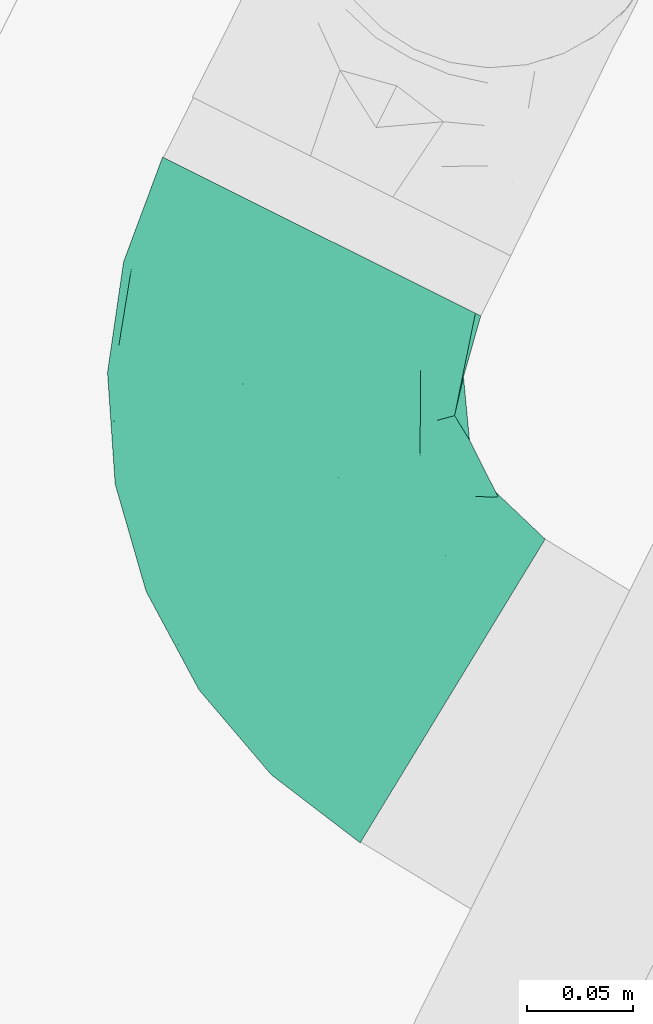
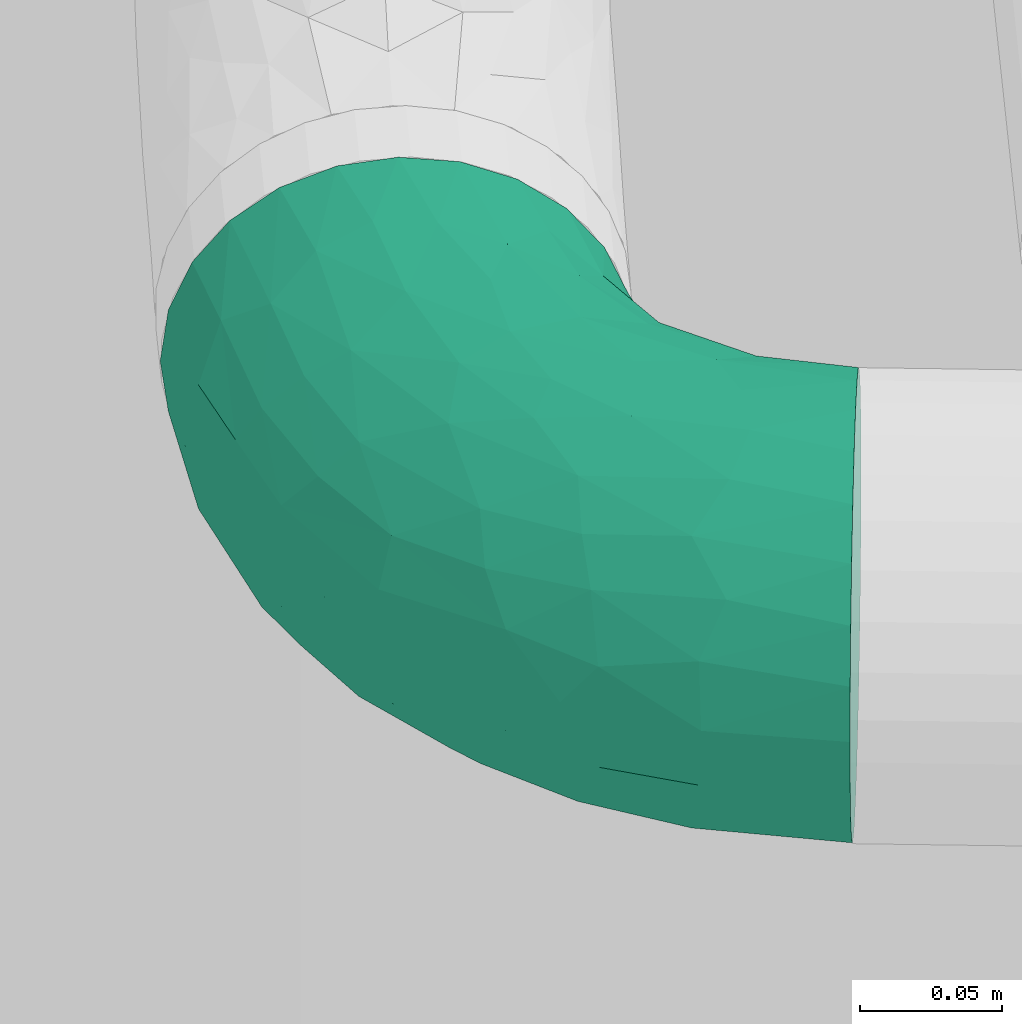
# One storey, part 35 of 47: 1 flow fitting.
"""IFC2X3 building model written with IfcOpenShell, lengths in metres."""

from ifc_helpers import new_model, entity, si_unit, converted_unit, derived_unit, direction, frame, origin, place, context, subcontext, project, spatial, faceted_brep, source, transform, mapped, type_object, type_shapes, element, save


model = new_model("IFC2X3")

# Units and contexts
model_context = context("Model", 3, precision=1e-05, world=origin(), true_north=direction((0.894925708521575, 0.446215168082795)))
context_of_model = context(None, 3, precision=1e-05, world=origin(), true_north=direction((0.894925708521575, 0.446215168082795)))
body_context = subcontext(model_context, "Body", "Model", "MODEL_VIEW")
ifc_project = project(units=[si_unit("LENGTHUNIT", "METRE"), si_unit("AREAUNIT", "SQUARE_METRE"), si_unit("VOLUMEUNIT", "CUBIC_METRE"), converted_unit("PLANEANGLEUNIT", "DEGREE", entity("IfcRatioMeasure", 0.0174532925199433), si_unit("PLANEANGLEUNIT", "RADIAN"), dimensions=[0, 0, 0, 0, 0, 0, 0]), si_unit("MASSUNIT", "GRAM", prefix="KILO"), si_unit("TIMEUNIT", "SECOND"), si_unit("FREQUENCYUNIT", "HERTZ"), si_unit("THERMODYNAMICTEMPERATUREUNIT", "DEGREE_CELSIUS"), derived_unit("THERMALTRANSMITTANCEUNIT", [(si_unit("MASSUNIT", "GRAM", prefix="KILO"), 1), (si_unit("THERMODYNAMICTEMPERATUREUNIT", "KELVIN"), -1), (si_unit("TIMEUNIT", "SECOND"), -3)]), derived_unit("VOLUMETRICFLOWRATEUNIT", [(si_unit("LENGTHUNIT", "METRE"), 3), (si_unit("TIMEUNIT", "SECOND"), -1)]), si_unit("ELECTRICCURRENTUNIT", "AMPERE"), si_unit("ELECTRICVOLTAGEUNIT", "VOLT"), si_unit("POWERUNIT", "WATT"), si_unit("FORCEUNIT", "NEWTON", prefix="KILO"), si_unit("ILLUMINANCEUNIT", "LUX"), si_unit("LUMINOUSFLUXUNIT", "LUMEN"), si_unit("LUMINOUSINTENSITYUNIT", "CANDELA"), si_unit("PRESSUREUNIT", "PASCAL")], contexts=[model_context, context_of_model])

# Site, building, storey
site_placement = place(None, frame((218.228324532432, 584.720189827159, 0.0), z_axis=(0.0, 0.0, 1.0), x_axis=(0.446215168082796, 0.894925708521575, 0.0)))
site = spatial("IfcSite", under=ifc_project, at=site_placement, Name="Default", CompositionType="ELEMENT")
building_placement = place(site_placement, origin())
building = spatial("IfcBuilding", under=site, at=building_placement, CompositionType="ELEMENT")
storey_placement = place(building_placement, frame((0.0, 0.0, 4.69)))
storey = spatial("IfcBuildingStorey", under=building, at=storey_placement, Name="1 - Piano Primo", CompositionType="ELEMENT", Elevation=4.69)

# Flow fitting
pipe_fitting_type = type_object("IfcPipeFittingType", Name="Standard", PredefinedType="NOTDEFINED")
shared_shape = source(origin(), body_context, "Body", "Brep", [
    faceted_brep([(-0.151999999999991, 0.0, -0.0841500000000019), (-0.151999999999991, -0.0217796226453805, -0.081282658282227), (-0.151999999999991, -0.0420750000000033, -0.0728760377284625), (-0.151999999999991, -0.0595030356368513, -0.05950303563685), (-0.151999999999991, -0.0728760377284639, -0.0420750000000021), (-0.151999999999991, -0.0812826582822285, -0.0217796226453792), (-0.151999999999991, -0.0841500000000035, 0.0), (-0.151999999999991, -0.0812826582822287, 0.021779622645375), (-0.151999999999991, -0.0728760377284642, 0.0420749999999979), (-0.151999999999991, -0.0595030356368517, 0.0595030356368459), (-0.151999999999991, -0.0420750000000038, 0.0728760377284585), (-0.151999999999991, -0.0217796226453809, 0.0812826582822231), (-0.151999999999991, 0.0, 0.0841499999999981), (-0.151999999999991, 0.0217796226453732, 0.0812826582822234), (-0.151999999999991, 0.0420749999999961, 0.0728760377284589), (-0.151999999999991, 0.0595030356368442, 0.0595030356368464), (-0.151999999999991, 0.0728760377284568, 0.0420749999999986), (-0.151999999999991, 0.0812826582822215, 0.0217796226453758), (-0.151999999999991, 0.0841499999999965, 0.0), (-0.151999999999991, 0.0812826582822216, -0.021779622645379), (-0.151999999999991, 0.0728760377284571, -0.0420750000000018), (-0.151999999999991, 0.0595030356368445, -0.0595030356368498), (-0.151999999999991, 0.0420749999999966, -0.0728760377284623), (-0.151999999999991, 0.0217796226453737, -0.0812826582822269), (0.0854479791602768, 0.145305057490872, -0.0420750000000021), (0.0721227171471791, 0.146434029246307, -0.05950303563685), (0.0547568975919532, 0.147905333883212, -0.0728760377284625), (0.034533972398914, 0.149618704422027, -0.081282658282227), (0.012832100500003, 0.15145737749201, -0.0841500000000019), (-0.00886977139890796, 0.153296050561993, -0.0812826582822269), (-0.0290926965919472, 0.155009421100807, -0.0728760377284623), (-0.046458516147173, 0.156480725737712, -0.0595030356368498), (-0.0597837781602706, 0.157609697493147, -0.0420750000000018), (-0.068160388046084, 0.158319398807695, -0.021779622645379), (-0.0710174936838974, 0.158561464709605, 0.0), (-0.0681603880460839, 0.158319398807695, 0.0217796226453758), (-0.0597837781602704, 0.157609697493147, 0.0420749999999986), (-0.0464585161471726, 0.156480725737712, 0.0595030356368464), (-0.0290926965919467, 0.155009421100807, 0.0728760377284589), (-0.00886977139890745, 0.153296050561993, 0.0812826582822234), (0.0128321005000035, 0.15145737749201, 0.0841499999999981), (0.0345339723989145, 0.149618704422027, 0.0812826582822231), (0.0547568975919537, 0.147905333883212, 0.0728760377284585), (0.0721227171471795, 0.146434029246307, 0.0595030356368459), (0.085447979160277, 0.145305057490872, 0.0420749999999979), (0.0938245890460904, 0.144595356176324, 0.021779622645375), (0.0966816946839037, 0.144353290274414, 0.0), (0.0938245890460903, 0.144595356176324, -0.0217796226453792), (-0.108023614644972, -0.0653863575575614, 0.0473880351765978), (-0.0953306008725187, -0.0485685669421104, 0.06285994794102), (-0.0994067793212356, -0.0785455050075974, 0.0), (0.0353835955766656, 0.000577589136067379, 0.0), (0.0158141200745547, -0.0172106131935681, 0.016063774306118), (-0.00356267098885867, -0.0352085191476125, 0.0), (-0.0984850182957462, -0.0739036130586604, 0.0266642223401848), (-0.077653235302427, 0.127498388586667, 0.0190647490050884), (-0.0744292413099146, 0.119924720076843, 0.0371750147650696), (0.0450435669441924, 0.0527612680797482, 0.0573779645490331), (0.0273056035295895, 0.0524970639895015, 0.0701487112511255), (0.0236525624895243, 0.0180683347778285, 0.0548094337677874), (0.0113854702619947, -0.0123908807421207, 0.0360075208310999), (0.0512433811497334, 0.025565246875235, 0.0217458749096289), (-0.0298000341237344, -0.0489021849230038, 0.021745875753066), (-0.0631956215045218, -0.0629629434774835, 0.0272356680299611), (-0.0491756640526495, -0.0619837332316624, 0.0), (-0.0200006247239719, -0.022042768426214, 0.0548094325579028), (-0.00819527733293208, 0.00891897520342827, 0.069722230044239), (-0.0546148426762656, -0.022776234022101, 0.0701487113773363), (-0.108292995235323, -0.0317820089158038, 0.0757894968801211), (-0.072822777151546, -0.00216494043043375, 0.0817564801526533), (-0.115146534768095, -0.0112967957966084, 0.0827843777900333), (-0.0429711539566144, 0.0328577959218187, 0.0839199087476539), (-0.0149653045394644, 0.0456402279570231, 0.0824997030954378), (-0.022305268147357, 0.0753019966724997, 0.0838159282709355), (-0.10209403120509, 0.0355562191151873, 0.0799354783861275), (-0.00201967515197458, 0.111923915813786, 0.0839222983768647), (-0.0268103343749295, 0.104731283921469, 0.0799354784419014), (-0.111353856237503, 0.0114612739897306, 0.0839222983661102), (-0.0758823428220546, 0.0278990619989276, 0.0837456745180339), (-0.104182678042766, 0.0941115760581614, 0.0274015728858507), (-0.126779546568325, 0.0799950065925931, 0.0353824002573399), (-0.122491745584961, 0.0896961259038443, 0.0), (0.0564431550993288, 0.0908900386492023, 0.0628599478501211), (-0.0221425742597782, -0.0363236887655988, 0.0391210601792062), (-0.0947281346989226, 0.0603971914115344, 0.0705967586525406), (-0.0805236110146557, 0.0876716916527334, 0.0591947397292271), (-0.116252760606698, 0.0701089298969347, 0.0550723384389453), (-0.125981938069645, 0.0513858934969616, 0.0687989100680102), (-0.0314768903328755, 0.0141051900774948, 0.0793454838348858), (0.000980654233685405, 0.0384539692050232, 0.0772445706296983), (0.0408108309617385, 0.105223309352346, 0.0757894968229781), (0.0209773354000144, 0.113781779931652, 0.0827843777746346), (-0.0984730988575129, 0.0876732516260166, 0.045122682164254), (0.0866571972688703, 0.0924209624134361, 0.0), (0.081954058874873, 0.0918943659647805, 0.0266642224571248), (0.070624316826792, 0.0569905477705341, 0.0179909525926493), (0.0587352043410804, 0.0550831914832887, 0.0428018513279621), (0.0742724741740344, 0.102117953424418, 0.0473880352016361), (-0.0430768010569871, 0.119768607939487, 0.0695856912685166), (-0.0591695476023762, 0.124231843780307, 0.0547961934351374), (-0.0790349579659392, 0.129626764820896, 0.0), (-0.0970108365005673, 0.105577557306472, 0.0), (-0.0603072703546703, 0.0825530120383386, 0.0730164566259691), (0.0659139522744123, 0.0437673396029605, 0.0), (-0.0534204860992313, 0.0581378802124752, 0.0818056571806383), (0.00830503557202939, 0.0723800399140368, 0.0817564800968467), (-0.0561866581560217, -0.0391050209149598, 0.0585560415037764), (-0.059845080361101, -0.0538753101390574, 0.0428018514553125), (0.0380633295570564, 0.0189970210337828, 0.0391210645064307), (-0.12600980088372, 0.051382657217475, -0.0687967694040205), (-0.0563755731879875, -0.0404285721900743, -0.0573779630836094), (-0.0546148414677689, -0.022776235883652, -0.0701487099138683), (-0.0200006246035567, -0.0220427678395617, -0.0548094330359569), (-0.111353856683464, 0.0114612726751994, -0.0839222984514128), (0.0512433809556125, 0.0255652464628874, -0.0217458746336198), (-0.102094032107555, 0.0355562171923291, -0.0799354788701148), (-0.116277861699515, 0.0701020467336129, -0.0550696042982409), (-0.126779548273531, 0.079995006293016, -0.0353823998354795), (-0.0984792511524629, 0.0876727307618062, -0.0451178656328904), (0.0408108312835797, 0.105223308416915, -0.0757894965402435), (-0.104182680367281, 0.094111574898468, -0.0274015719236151), (0.0236525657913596, 0.018068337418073, -0.0548094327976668), (0.0380633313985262, 0.0189970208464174, -0.0391210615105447), (0.0113854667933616, -0.0123908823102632, -0.0360075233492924), (-0.0947742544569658, 0.0603788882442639, -0.0705928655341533), (-0.0534204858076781, 0.0581378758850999, -0.0818056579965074), (-0.0591695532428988, 0.124231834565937, -0.0547961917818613), (-0.0442138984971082, 0.0187649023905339, -0.0824997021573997), (-0.0113975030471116, 0.0325553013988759, -0.0793454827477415), (-0.0383994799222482, 0.00226919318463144, -0.0772445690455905), (-0.0984850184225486, -0.073903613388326, -0.0266642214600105), (-0.108023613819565, -0.0653863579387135, -0.0473880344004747), (-0.0731501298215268, 0.0285827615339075, -0.083815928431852), (-0.0805607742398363, 0.0876375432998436, -0.0591947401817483), (-0.029800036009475, -0.0489021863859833, -0.0217458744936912), (-0.0627493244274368, -0.0655609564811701, -0.0179909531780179), (-0.0953306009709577, -0.0485685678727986, -0.0628599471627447), (-0.108292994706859, -0.0317820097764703, -0.0757894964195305), (-0.115146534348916, -0.0112967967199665, -0.082784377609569), (-0.0598450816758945, -0.0538753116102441, -0.0428018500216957), (-0.0268103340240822, 0.104731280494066, -0.0799354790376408), (-0.00201967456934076, 0.11192391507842, -0.0839222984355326), (-0.0213933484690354, 0.0779667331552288, -0.0837456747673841), (-0.0744292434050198, 0.119924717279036, -0.0371750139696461), (-0.083571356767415, 0.117596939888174, -0.0191696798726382), (-0.00819527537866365, 0.0089189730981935, -0.0697222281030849), (0.0273056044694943, 0.0524970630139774, -0.0701487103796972), (-0.0603158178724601, 0.0825261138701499, -0.0730231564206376), (-0.0430767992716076, 0.119768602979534, -0.0695856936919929), (0.0742724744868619, 0.102117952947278, -0.0473880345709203), (0.0564431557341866, 0.090890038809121, -0.0628599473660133), (0.0209773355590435, 0.113781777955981, -0.082784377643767), (-0.0291128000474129, 0.0455916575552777, -0.0839199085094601), (0.0680732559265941, 0.0576545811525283, -0.0272356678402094), (0.0158141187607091, -0.0172106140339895, -0.0160637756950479), (0.0819540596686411, 0.0918943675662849, -0.0266642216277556), (0.00830503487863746, 0.072380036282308, -0.0817564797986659), (-0.072822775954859, -0.0021649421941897, -0.0817564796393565), (0.0437087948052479, 0.0526847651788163, -0.0585560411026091), (0.0587352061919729, 0.0550831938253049, -0.0428018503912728), (-0.0221425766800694, -0.0363236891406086, -0.0391210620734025)], [[[0, 1, 2, 3, 4, 5, 6, 7, 8, 9, 10, 11, 12, 13, 14, 15, 16, 17, 18, 19, 20, 21, 22, 23]], [[24, 25, 26, 27, 28, 29, 30, 31, 32, 33, 34, 35, 36, 37, 38, 39, 40, 41, 42, 43, 44, 45, 46, 47]], [[9, 48, 49]], [[7, 6, 50]], [[51, 52, 53]], [[54, 8, 7]], [[50, 54, 7]], [[35, 55, 56]], [[48, 8, 54]], [[57, 58, 59]], [[60, 52, 61]], [[62, 63, 64]], [[9, 49, 10]], [[53, 62, 64]], [[65, 66, 67]], [[68, 67, 69]], [[56, 36, 35]], [[70, 12, 11]], [[71, 72, 73]], [[14, 13, 74]], [[68, 10, 49]], [[75, 39, 76]], [[74, 77, 78]], [[79, 17, 80]], [[17, 81, 18]], [[81, 17, 79]], [[82, 43, 42]], [[60, 65, 83]], [[84, 85, 86]], [[59, 58, 66]], [[84, 87, 74]], [[72, 88, 89]], [[82, 42, 90]], [[80, 17, 16]], [[91, 41, 40]], [[80, 92, 79]], [[93, 94, 95]], [[93, 45, 94]], [[15, 14, 87]], [[40, 39, 75]], [[92, 56, 79]], [[45, 44, 94]], [[82, 96, 97]], [[97, 94, 44]], [[97, 44, 43]], [[8, 48, 9]], [[96, 61, 95]], [[45, 93, 46]], [[85, 98, 99]], [[64, 54, 50]], [[76, 73, 75]], [[34, 100, 55]], [[13, 77, 74]], [[79, 55, 101]], [[15, 86, 16]], [[79, 101, 81]], [[90, 42, 41]], [[99, 98, 37]], [[55, 79, 56]], [[76, 98, 102]], [[59, 65, 60]], [[98, 85, 102]], [[10, 68, 11]], [[38, 98, 76]], [[76, 39, 38]], [[13, 12, 77]], [[82, 90, 58]], [[51, 103, 61]], [[37, 36, 99]], [[38, 37, 98]], [[85, 84, 102]], [[73, 76, 104]], [[91, 75, 105]], [[70, 77, 12]], [[69, 71, 78]], [[67, 68, 49]], [[70, 68, 69]], [[67, 106, 65]], [[67, 66, 88]], [[91, 90, 41]], [[88, 66, 89]], [[105, 58, 90]], [[65, 59, 66]], [[63, 48, 54]], [[49, 48, 107]], [[82, 97, 43]], [[96, 94, 97]], [[86, 15, 87]], [[104, 84, 74]], [[36, 56, 99]], [[85, 99, 56]], [[106, 67, 49]], [[65, 106, 83]], [[108, 59, 60]], [[82, 57, 96]], [[62, 53, 52]], [[63, 62, 107]], [[95, 61, 103]], [[96, 57, 108]], [[84, 104, 102]], [[76, 102, 104]], [[75, 91, 40]], [[90, 91, 105]], [[68, 70, 11]], [[77, 70, 69]], [[71, 73, 104]], [[105, 75, 73]], [[104, 74, 78]], [[71, 69, 88]], [[69, 78, 77]], [[104, 78, 71]], [[67, 88, 69]], [[66, 58, 89]], [[58, 105, 89]], [[72, 89, 105]], [[73, 72, 105]], [[88, 72, 71]], [[16, 86, 80]], [[92, 86, 85]], [[86, 92, 80]], [[56, 92, 85]], [[74, 87, 14]], [[86, 87, 84]], [[61, 52, 51]], [[62, 52, 60]], [[34, 55, 35]], [[55, 100, 101]], [[49, 107, 106]], [[83, 106, 107]], [[107, 62, 83]], [[62, 60, 83]], [[60, 61, 108]], [[61, 96, 108]], [[58, 57, 82]], [[108, 57, 59]], [[48, 63, 107]], [[64, 63, 54]], [[93, 95, 103]], [[96, 95, 94]], [[22, 21, 109]], [[110, 111, 112]], [[0, 23, 113]], [[51, 114, 103]], [[23, 22, 115]], [[116, 117, 118]], [[18, 81, 19]], [[26, 119, 27]], [[81, 120, 19]], [[121, 122, 123]], [[115, 124, 125]], [[31, 126, 32]], [[127, 128, 129]], [[20, 116, 21]], [[4, 130, 5]], [[131, 4, 3]], [[50, 6, 5]], [[132, 115, 125]], [[131, 130, 4]], [[124, 116, 133]], [[64, 134, 53]], [[116, 124, 109]], [[115, 132, 113]], [[130, 50, 5]], [[130, 135, 50]], [[136, 137, 111]], [[138, 1, 0]], [[136, 139, 131]], [[137, 2, 1]], [[140, 141, 142]], [[101, 120, 81]], [[117, 20, 19]], [[143, 144, 33]], [[112, 111, 145]], [[33, 144, 34]], [[145, 146, 121]], [[124, 133, 147]], [[144, 143, 120]], [[140, 148, 30]], [[25, 149, 150]], [[28, 27, 151]], [[29, 141, 140]], [[101, 100, 144]], [[29, 140, 30]], [[19, 120, 117]], [[30, 148, 31]], [[152, 127, 132]], [[26, 150, 119]], [[103, 114, 153]], [[154, 51, 53]], [[113, 23, 115]], [[136, 3, 2]], [[136, 2, 137]], [[150, 26, 25]], [[155, 24, 47]], [[29, 28, 141]], [[46, 93, 47]], [[24, 149, 25]], [[103, 155, 93]], [[155, 47, 93]], [[112, 121, 123]], [[24, 155, 149]], [[123, 154, 134]], [[119, 146, 156]], [[126, 31, 148]], [[32, 143, 33]], [[118, 143, 133]], [[139, 134, 135]], [[138, 113, 157]], [[151, 141, 28]], [[156, 152, 142]], [[147, 140, 125]], [[126, 133, 143]], [[138, 137, 1]], [[128, 145, 129]], [[157, 111, 137]], [[121, 112, 145]], [[146, 119, 150]], [[151, 119, 156]], [[146, 158, 121]], [[146, 145, 128]], [[136, 131, 3]], [[139, 130, 131]], [[153, 149, 155]], [[150, 149, 159]], [[133, 148, 147]], [[109, 115, 22]], [[133, 126, 148]], [[143, 32, 126]], [[160, 112, 123]], [[136, 110, 139]], [[158, 146, 150]], [[121, 158, 122]], [[135, 134, 64]], [[139, 110, 160]], [[114, 51, 154]], [[153, 114, 159]], [[140, 147, 148]], [[125, 124, 147]], [[113, 138, 0]], [[137, 138, 157]], [[119, 151, 27]], [[141, 151, 156]], [[152, 132, 125]], [[157, 113, 132]], [[125, 140, 142]], [[152, 156, 128]], [[156, 142, 141]], [[125, 142, 152]], [[146, 128, 156]], [[145, 111, 129]], [[111, 157, 129]], [[127, 129, 157]], [[132, 127, 157]], [[128, 127, 152]], [[118, 117, 120]], [[116, 20, 117]], [[143, 118, 120]], [[116, 118, 133]], [[116, 109, 21]], [[115, 109, 124]], [[134, 154, 53]], [[114, 154, 123]], [[101, 144, 120]], [[144, 100, 34]], [[123, 134, 160]], [[134, 139, 160]], [[111, 110, 136]], [[160, 110, 112]], [[150, 159, 158]], [[122, 158, 159]], [[159, 114, 122]], [[114, 123, 122]], [[50, 135, 64]], [[139, 135, 130]], [[149, 153, 159]], [[103, 153, 155]]]),
])
type_shapes(pipe_fitting_type, [shared_shape])
flow_fitting_placement = place(storey_placement, frame((66.5965324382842, -2.02393274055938, 2.96000000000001), z_axis=(0.0, 0.0, 1.0), x_axis=(-1.0, 0.0, 0.0)))
element("IfcFlowFitting", 1, at=flow_fitting_placement, inside=storey, type_object=pipe_fitting_type, Name="M_Gomito - Saldato - Generico:Standard", ObjectType="Standard", context=body_context, shape_type="MappedRepresentation", body=[
    mapped(shared_shape, transform((0.0, 0.0, 0.0), scale=1.0)),
])

save(model, "model.ifc")
